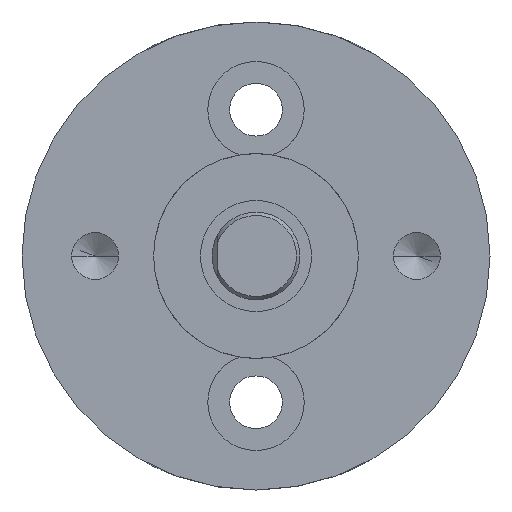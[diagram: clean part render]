
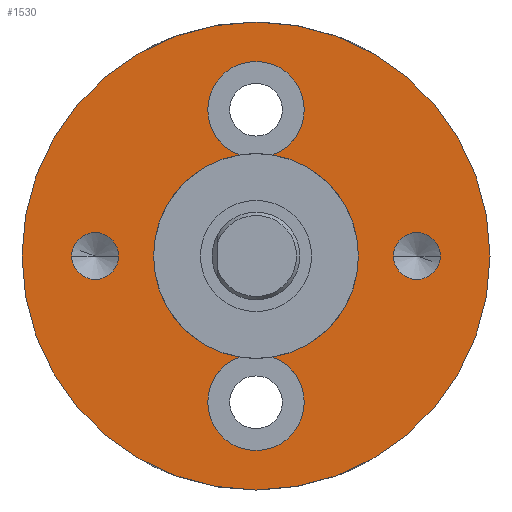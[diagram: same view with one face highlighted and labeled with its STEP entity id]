
A CAD part, left-side view. The second image highlights one B-rep face of the part: STEP entity #1530.
In plain terms, the highlighted planar face has unit normal (-1, 0, 0).
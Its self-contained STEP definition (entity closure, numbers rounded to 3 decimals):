
#101=CARTESIAN_POINT('',(0.,0.,0.));
#102=DIRECTION('',(1.,0.,0.));
#103=DIRECTION('',(0.,1.,0.));
#104=AXIS2_PLACEMENT_3D('',#101,#102,#103);
#109=CARTESIAN_POINT('',(0.,0.,0.));
#110=DIRECTION('',(-1.,0.,0.));
#111=DIRECTION('',(0.,1.,0.));
#112=AXIS2_PLACEMENT_3D('',#109,#110,#111);
#117=CARTESIAN_POINT('',(0.,0.,5.));
#118=DIRECTION('',(-1.,0.,0.));
#119=DIRECTION('',(0.,-1.,0.));
#120=AXIS2_PLACEMENT_3D('',#117,#118,#119);
#125=CARTESIAN_POINT('',(0.,0.,5.));
#126=DIRECTION('',(-1.,0.,0.));
#127=DIRECTION('',(0.,1.,0.));
#128=AXIS2_PLACEMENT_3D('',#125,#126,#127);
#133=CARTESIAN_POINT('',(0.,0.,-5.));
#134=DIRECTION('',(-1.,0.,0.));
#135=DIRECTION('',(0.,0.347,0.938));
#136=AXIS2_PLACEMENT_3D('',#133,#134,#135);
#141=CARTESIAN_POINT('',(0.,0.,-5.));
#142=DIRECTION('',(-1.,0.,0.));
#143=DIRECTION('',(0.,1.,0.));
#144=AXIS2_PLACEMENT_3D('',#141,#142,#143);
#149=CARTESIAN_POINT('',(0.,0.,-5.));
#150=DIRECTION('',(-1.,0.,0.));
#151=DIRECTION('',(0.,-1.,0.));
#152=AXIS2_PLACEMENT_3D('',#149,#150,#151);
#157=CARTESIAN_POINT('',(0.,0.,5.));
#158=DIRECTION('',(-1.,0.,0.));
#159=DIRECTION('',(0.,-0.347,-0.938));
#160=AXIS2_PLACEMENT_3D('',#157,#158,#159);
#165=CARTESIAN_POINT('',(0.,5.5,0.));
#166=DIRECTION('',(-1.,0.,0.));
#167=DIRECTION('',(0.,1.,0.));
#168=AXIS2_PLACEMENT_3D('',#165,#166,#167);
#173=CARTESIAN_POINT('',(0.,5.5,0.));
#174=DIRECTION('',(-1.,0.,0.));
#175=DIRECTION('',(0.,-1.,0.));
#176=AXIS2_PLACEMENT_3D('',#173,#174,#175);
#181=CARTESIAN_POINT('',(0.,-5.5,0.));
#182=DIRECTION('',(-1.,0.,0.));
#183=DIRECTION('',(0.,-1.,0.));
#184=AXIS2_PLACEMENT_3D('',#181,#182,#183);
#189=CARTESIAN_POINT('',(0.,-5.5,0.));
#190=DIRECTION('',(-1.,0.,0.));
#191=DIRECTION('',(0.,1.,0.));
#192=AXIS2_PLACEMENT_3D('',#189,#190,#191);
#941=CARTESIAN_POINT('',(0.,0.,0.));
#942=DIRECTION('',(-1.,0.,0.));
#943=DIRECTION('',(0.,1.,0.));
#944=AXIS2_PLACEMENT_3D('',#941,#942,#943);
#963=CARTESIAN_POINT('',(0.,0.,0.));
#964=DIRECTION('',(-1.,0.,0.));
#965=DIRECTION('',(0.,-0.164,-0.987));
#966=AXIS2_PLACEMENT_3D('',#963,#964,#965);
#979=CARTESIAN_POINT('',(0.,0.,0.));
#980=DIRECTION('',(1.,0.,0.));
#981=DIRECTION('',(0.,-0.164,0.987));
#982=AXIS2_PLACEMENT_3D('',#979,#980,#981);
#987=CARTESIAN_POINT('',(0.,0.,0.));
#988=DIRECTION('',(1.,0.,0.));
#989=DIRECTION('',(0.,1.,0.));
#990=AXIS2_PLACEMENT_3D('',#987,#988,#989);
#1280=CARTESIAN_POINT('',(0.,8.,0.));
#1282=VERTEX_POINT('',#1280);
#1284=CARTESIAN_POINT('',(0.,-8.,0.));
#1286=VERTEX_POINT('',#1284);
#1299=CARTESIAN_POINT('',(0.,1.65,-5.));
#1300=CARTESIAN_POINT('',(0.,-1.65,-5.));
#1301=VERTEX_POINT('',#1299);
#1302=VERTEX_POINT('',#1300);
#1303=CARTESIAN_POINT('',(0.,-0.573,-3.453));
#1304=VERTEX_POINT('',#1303);
#1313=CARTESIAN_POINT('',(0.,-1.65,5.));
#1314=CARTESIAN_POINT('',(0.,1.65,5.));
#1315=VERTEX_POINT('',#1313);
#1316=VERTEX_POINT('',#1314);
#1317=CARTESIAN_POINT('',(0.,0.573,3.453));
#1318=VERTEX_POINT('',#1317);
#1325=CARTESIAN_POINT('',(0.,6.3,0.));
#1326=CARTESIAN_POINT('',(0.,4.7,0.));
#1327=VERTEX_POINT('',#1325);
#1328=VERTEX_POINT('',#1326);
#1335=CARTESIAN_POINT('',(0.,-6.3,0.));
#1336=CARTESIAN_POINT('',(0.,-4.7,0.));
#1337=VERTEX_POINT('',#1335);
#1338=VERTEX_POINT('',#1336);
#1343=CARTESIAN_POINT('',(0.,3.5,0.));
#1345=VERTEX_POINT('',#1343);
#1351=CARTESIAN_POINT('',(0.,-3.5,0.));
#1353=VERTEX_POINT('',#1351);
#1363=CARTESIAN_POINT('',(0.,0.573,-3.453));
#1364=VERTEX_POINT('',#1363);
#1365=CARTESIAN_POINT('',(0.,-0.573,3.453));
#1366=VERTEX_POINT('',#1365);
#1487=CARTESIAN_POINT('',(0.,0.,0.));
#1488=DIRECTION('',(1.,0.,0.));
#1489=DIRECTION('',(0.,-1.,0.));
#1490=AXIS2_PLACEMENT_3D('',#1487,#1488,#1489);
#1491=PLANE('',#1490);
#1492=ORIENTED_EDGE('',*,*,#1468,.T.);
#1493=ORIENTED_EDGE('',*,*,#1479,.F.);
#1494=EDGE_LOOP('',(#1492,#1493));
#1495=FACE_OUTER_BOUND('',#1494,.F.);
#1497=ORIENTED_EDGE('',*,*,#1496,.T.);
#1499=ORIENTED_EDGE('',*,*,#1498,.T.);
#1501=ORIENTED_EDGE('',*,*,#1500,.F.);
#1503=ORIENTED_EDGE('',*,*,#1502,.T.);
#1505=ORIENTED_EDGE('',*,*,#1504,.T.);
#1507=ORIENTED_EDGE('',*,*,#1506,.T.);
#1509=ORIENTED_EDGE('',*,*,#1508,.T.);
#1511=ORIENTED_EDGE('',*,*,#1510,.T.);
#1513=ORIENTED_EDGE('',*,*,#1512,.F.);
#1515=ORIENTED_EDGE('',*,*,#1514,.T.);
#1516=EDGE_LOOP('',(#1497,#1499,#1501,#1503,#1505,#1507,#1509,#1511,#1513,
#1515));
#1517=FACE_BOUND('',#1516,.F.);
#1519=ORIENTED_EDGE('',*,*,#1518,.T.);
#1521=ORIENTED_EDGE('',*,*,#1520,.T.);
#1522=EDGE_LOOP('',(#1519,#1521));
#1523=FACE_BOUND('',#1522,.F.);
#1525=ORIENTED_EDGE('',*,*,#1524,.T.);
#1527=ORIENTED_EDGE('',*,*,#1526,.T.);
#1528=EDGE_LOOP('',(#1525,#1527));
#1529=FACE_BOUND('',#1528,.F.);
#1530=ADVANCED_FACE('',(#1495,#1517,#1523,#1529),#1491,.F.);
#105=CIRCLE('',#104,8.);
#113=CIRCLE('',#112,8.);
#121=CIRCLE('',#120,1.65);
#129=CIRCLE('',#128,1.65);
#137=CIRCLE('',#136,1.65);
#145=CIRCLE('',#144,1.65);
#153=CIRCLE('',#152,1.65);
#161=CIRCLE('',#160,1.65);
#169=CIRCLE('',#168,0.8);
#177=CIRCLE('',#176,0.8);
#185=CIRCLE('',#184,0.8);
#193=CIRCLE('',#192,0.8);
#945=CIRCLE('',#944,3.5);
#967=CIRCLE('',#966,3.5);
#983=CIRCLE('',#982,3.5);
#991=CIRCLE('',#990,3.5);
#1468=EDGE_CURVE('',#1282,#1286,#105,.T.);
#1479=EDGE_CURVE('',#1282,#1286,#113,.T.);
#1496=EDGE_CURVE('',#1315,#1316,#121,.T.);
#1498=EDGE_CURVE('',#1316,#1318,#129,.T.);
#1500=EDGE_CURVE('',#1345,#1318,#991,.T.);
#1502=EDGE_CURVE('',#1345,#1364,#945,.T.);
#1504=EDGE_CURVE('',#1364,#1301,#137,.T.);
#1506=EDGE_CURVE('',#1301,#1302,#145,.T.);
#1508=EDGE_CURVE('',#1302,#1304,#153,.T.);
#1510=EDGE_CURVE('',#1304,#1353,#967,.T.);
#1512=EDGE_CURVE('',#1366,#1353,#983,.T.);
#1514=EDGE_CURVE('',#1366,#1315,#161,.T.);
#1518=EDGE_CURVE('',#1327,#1328,#169,.T.);
#1520=EDGE_CURVE('',#1328,#1327,#177,.T.);
#1524=EDGE_CURVE('',#1337,#1338,#185,.T.);
#1526=EDGE_CURVE('',#1338,#1337,#193,.T.);
